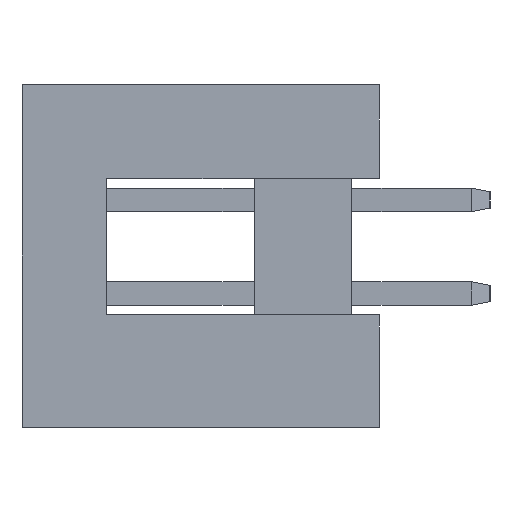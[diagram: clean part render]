
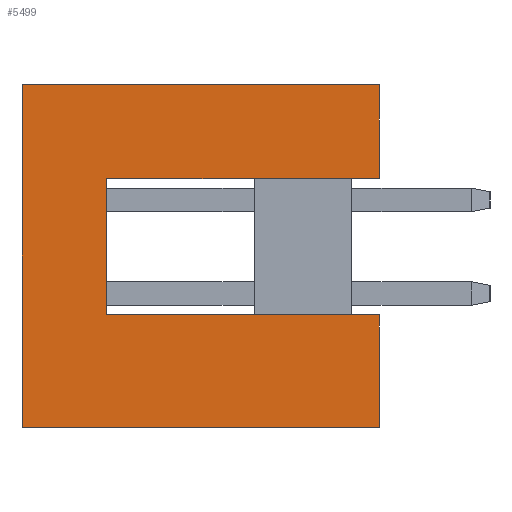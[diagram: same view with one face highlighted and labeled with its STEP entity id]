
A CAD part, left-side view. The second image highlights one B-rep face of the part: STEP entity #5499.
In plain terms, the highlighted planar face has unit normal (-1, 0, 0).
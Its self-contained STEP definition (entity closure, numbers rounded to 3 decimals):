
#2 = DIRECTION ( 'NONE',  ( 0., -1., 0. ) ) ;
#138 = LINE ( 'NONE', #2093, #3550 ) ;
#768 = VERTEX_POINT ( 'NONE', #2308 ) ;
#942 = EDGE_CURVE ( 'NONE', #2989, #12566, #9273, .T. ) ;
#1009 = LINE ( 'NONE', #10262, #11022 ) ;
#1206 = VECTOR ( 'NONE', #8366, 1000. ) ;
#1224 = AXIS2_PLACEMENT_3D ( 'NONE', #2973, #6098, #3167 ) ;
#2093 = CARTESIAN_POINT ( 'NONE',  ( -24.677, 2.049, -1.6 ) ) ;
#2308 = CARTESIAN_POINT ( 'NONE',  ( -24.677, -5.351, 2.1 ) ) ;
#2316 = VECTOR ( 'NONE', #6692, 1000. ) ;
#2407 = LINE ( 'NONE', #8345, #10183 ) ;
#2973 = CARTESIAN_POINT ( 'NONE',  ( -24.677, 4.349, 4.65 ) ) ;
#2989 = VERTEX_POINT ( 'NONE', #10301 ) ;
#3167 = DIRECTION ( 'NONE',  ( 0., 1., 0. ) ) ;
#3205 = EDGE_CURVE ( 'NONE', #10318, #12900, #10766, .T. ) ;
#3367 = EDGE_LOOP ( 'NONE', ( #11691, #10701, #5180, #13215, #6610, #8887, #7510, #9043 ) ) ;
#3550 = VECTOR ( 'NONE', #13104, 1000. ) ;
#3556 = LINE ( 'NONE', #11706, #1206 ) ;
#3619 = CARTESIAN_POINT ( 'NONE',  ( -24.677, -5.351, 4.65 ) ) ;
#4231 = PLANE ( 'NONE',  #1224 ) ;
#4320 = CARTESIAN_POINT ( 'NONE',  ( -24.677, 4.349, 4.65 ) ) ;
#4395 = CARTESIAN_POINT ( 'NONE',  ( -24.677, -5.351, -1.6 ) ) ;
#4616 = CARTESIAN_POINT ( 'NONE',  ( -24.677, -5.351, -4.65 ) ) ;
#4682 = VERTEX_POINT ( 'NONE', #4320 ) ;
#4831 = DIRECTION ( 'NONE',  ( 0., 0., -1. ) ) ;
#5180 = ORIENTED_EDGE ( 'NONE', *, *, #12860, .F. ) ;
#5255 = VERTEX_POINT ( 'NONE', #10442 ) ;
#5499 = ADVANCED_FACE ( 'NONE', ( #7104 ), #4231, .F. ) ;
#6098 = DIRECTION ( 'NONE',  ( 1., 0., 0. ) ) ;
#6130 = VECTOR ( 'NONE', #7800, 1000. ) ;
#6218 = VERTEX_POINT ( 'NONE', #11385 ) ;
#6610 = ORIENTED_EDGE ( 'NONE', *, *, #10364, .T. ) ;
#6692 = DIRECTION ( 'NONE',  ( 0., 0., -1. ) ) ;
#6717 = EDGE_CURVE ( 'NONE', #6218, #12900, #3556, .T. ) ;
#7009 = EDGE_CURVE ( 'NONE', #12566, #10318, #138, .T. ) ;
#7104 = FACE_OUTER_BOUND ( 'NONE', #3367, .T. ) ;
#7158 = VECTOR ( 'NONE', #4831, 1000. ) ;
#7393 = EDGE_CURVE ( 'NONE', #4682, #5255, #1009, .T. ) ;
#7510 = ORIENTED_EDGE ( 'NONE', *, *, #3205, .F. ) ;
#7800 = DIRECTION ( 'NONE',  ( 0., 0., -1. ) ) ;
#8345 = CARTESIAN_POINT ( 'NONE',  ( -24.677, -5.351, 2.1 ) ) ;
#8366 = DIRECTION ( 'NONE',  ( 0., -1., 0. ) ) ;
#8800 = CARTESIAN_POINT ( 'NONE',  ( -24.677, 4.349, 4.65 ) ) ;
#8887 = ORIENTED_EDGE ( 'NONE', *, *, #6717, .T. ) ;
#9043 = ORIENTED_EDGE ( 'NONE', *, *, #7009, .F. ) ;
#9109 = CARTESIAN_POINT ( 'NONE',  ( -24.677, 2.049, -1.6 ) ) ;
#9250 = VECTOR ( 'NONE', #12220, 1000. ) ;
#9273 = LINE ( 'NONE', #10210, #9250 ) ;
#9476 = DIRECTION ( 'NONE',  ( 0., 1., 0. ) ) ;
#9764 = LINE ( 'NONE', #3619, #2316 ) ;
#10183 = VECTOR ( 'NONE', #9476, 1000. ) ;
#10210 = CARTESIAN_POINT ( 'NONE',  ( -24.677, 2.049, 2.1 ) ) ;
#10262 = CARTESIAN_POINT ( 'NONE',  ( -24.677, 4.349, 4.65 ) ) ;
#10301 = CARTESIAN_POINT ( 'NONE',  ( -24.677, 2.049, 2.1 ) ) ;
#10318 = VERTEX_POINT ( 'NONE', #4395 ) ;
#10364 = EDGE_CURVE ( 'NONE', #4682, #6218, #10865, .T. ) ;
#10442 = CARTESIAN_POINT ( 'NONE',  ( -24.677, -5.351, 4.65 ) ) ;
#10701 = ORIENTED_EDGE ( 'NONE', *, *, #13119, .F. ) ;
#10766 = LINE ( 'NONE', #11976, #7158 ) ;
#10865 = LINE ( 'NONE', #8800, #6130 ) ;
#11022 = VECTOR ( 'NONE', #2, 1000. ) ;
#11385 = CARTESIAN_POINT ( 'NONE',  ( -24.677, 4.349, -4.65 ) ) ;
#11691 = ORIENTED_EDGE ( 'NONE', *, *, #942, .F. ) ;
#11706 = CARTESIAN_POINT ( 'NONE',  ( -24.677, 4.349, -4.65 ) ) ;
#11976 = CARTESIAN_POINT ( 'NONE',  ( -24.677, -5.351, 4.65 ) ) ;
#12220 = DIRECTION ( 'NONE',  ( 0., 0., -1. ) ) ;
#12566 = VERTEX_POINT ( 'NONE', #9109 ) ;
#12860 = EDGE_CURVE ( 'NONE', #5255, #768, #9764, .T. ) ;
#12900 = VERTEX_POINT ( 'NONE', #4616 ) ;
#13104 = DIRECTION ( 'NONE',  ( 0., -1., 0. ) ) ;
#13119 = EDGE_CURVE ( 'NONE', #768, #2989, #2407, .T. ) ;
#13215 = ORIENTED_EDGE ( 'NONE', *, *, #7393, .F. ) ;
